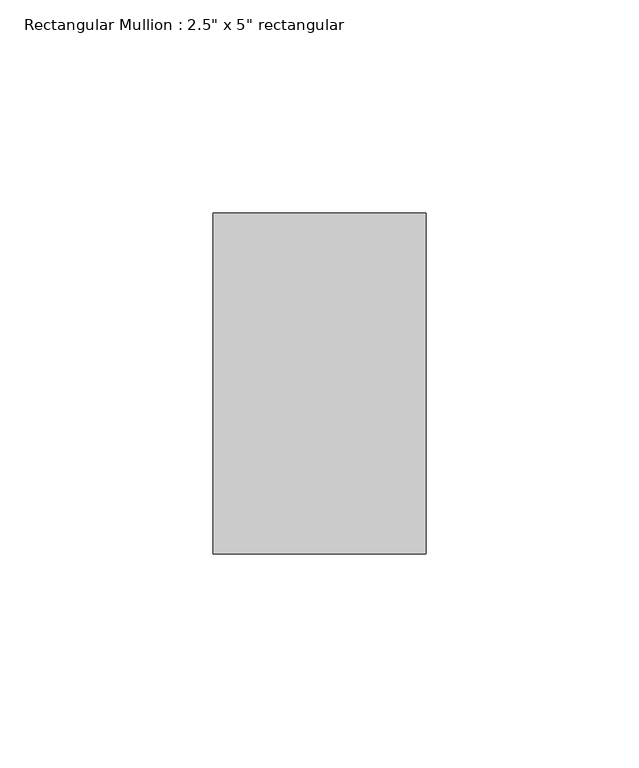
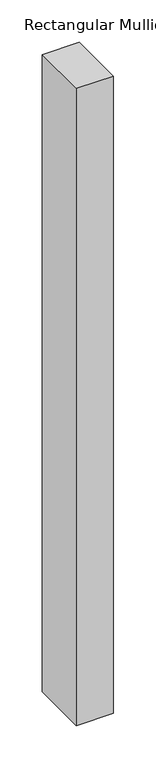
"""IFC4 building model written with IfcOpenShell, lengths in millimetres: member geometry."""

from ifc_helpers import new_model, si_unit, frame, origin, place, context, project, spatial, polyline, outline, extrude, source, transform, mapped, element, save


def member_c876bcbd(model_context):
    return source(origin(), model_context, "Body", "SweptSolid", [
        extrude(outline(polyline([(25.0, 40.0), (25.0, -40.0), (-25.0, -40.0), (-25.0, 40.0), (25.0, 40.0)])), frame((0.0, 0.0, -917.0000002), z_axis=(0.0, 0.0, 1.0), x_axis=(1.0, 0.0, 0.0)), (0.0, 0.0, 1.0), 917.0000002),
    ])


if __name__ == "__main__":
    model = new_model("IFC4")
    model_context = context("Model", 3, world=origin())
    ifc_project = project(units=[si_unit("LENGTHUNIT", "METRE", prefix="MILLI")], contexts=[model_context])
    site = spatial("IfcSite", under=ifc_project)
    building = spatial("IfcBuilding", under=site)
    placement = place(None, origin())
    member_shape = member_c876bcbd(model_context)
    element("IfcMember", 1, ObjectType="Rectangular Mullion : 2.5\" x 5\" rectangular", at=placement, inside=building, context=model_context, shape_type="MappedRepresentation", body=[
        mapped(member_shape, transform((0.0, 0.0, 0.0), x_axis=(1.0, 0.0, 0.0), y_axis=(0.0, 1.0, 0.0), z_axis=(0.0, 0.0, 1.0))),
    ])
    save(model, "model.ifc")
